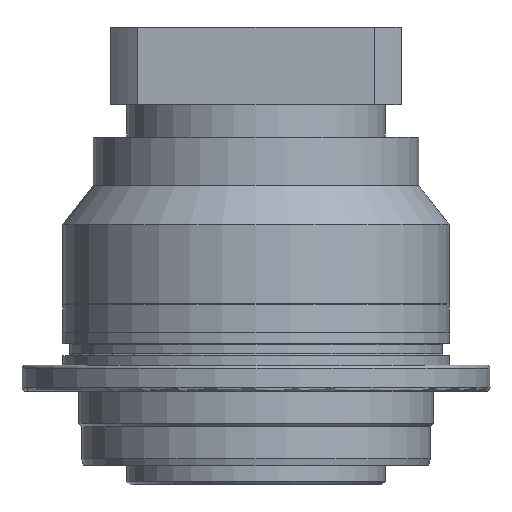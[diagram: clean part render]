
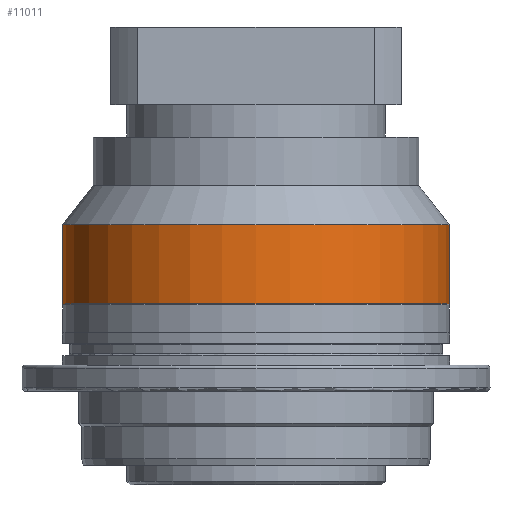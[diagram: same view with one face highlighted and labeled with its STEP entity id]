
A CAD part, front view. The second image highlights one B-rep face of the part: STEP entity #11011.
In plain terms, the highlighted cylindrical face has radius 59.9 mm (diameter 119.8 mm), a partial arc.
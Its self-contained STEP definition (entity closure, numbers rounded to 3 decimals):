
#402 = CARTESIAN_POINT ( 'NONE',  ( -563.5, 0., -59.9 ) ) ;
#500 = VECTOR ( 'NONE', #9006, 1000. ) ;
#719 = DIRECTION ( 'NONE',  ( 0., 0., -1. ) ) ;
#796 = EDGE_CURVE ( 'NONE', #12230, #11183, #12219, .T. ) ;
#1004 = CARTESIAN_POINT ( 'NONE',  ( -539., 0., 0. ) ) ;
#2672 = CARTESIAN_POINT ( 'NONE',  ( -563.5, 0., 59.9 ) ) ;
#2675 = VERTEX_POINT ( 'NONE', #7469 ) ;
#2791 = DIRECTION ( 'NONE',  ( 1., 0., 0. ) ) ;
#2897 = CARTESIAN_POINT ( 'NONE',  ( -563.5, 0., 0. ) ) ;
#3175 = ORIENTED_EDGE ( 'NONE', *, *, #5815, .F. ) ;
#3363 = VECTOR ( 'NONE', #2791, 1000. ) ;
#3372 = AXIS2_PLACEMENT_3D ( 'NONE', #1004, #6725, #8764 ) ;
#3714 = DIRECTION ( 'NONE',  ( 1., 0., 0. ) ) ;
#3862 = DIRECTION ( 'NONE',  ( -1., 0., 0. ) ) ;
#4631 = CARTESIAN_POINT ( 'NONE',  ( -563.5, 0., 0. ) ) ;
#4635 = CARTESIAN_POINT ( 'NONE',  ( -539., 0., -59.9 ) ) ;
#4781 = EDGE_CURVE ( 'NONE', #9319, #2675, #8265, .T. ) ;
#5815 = EDGE_CURVE ( 'NONE', #2675, #11183, #6253, .T. ) ;
#6068 = EDGE_CURVE ( 'NONE', #9319, #12230, #10768, .T. ) ;
#6253 = LINE ( 'NONE', #2672, #3363 ) ;
#6725 = DIRECTION ( 'NONE',  ( -1., 0., 0. ) ) ;
#7469 = CARTESIAN_POINT ( 'NONE',  ( -563.5, 0., 59.9 ) ) ;
#7485 = EDGE_LOOP ( 'NONE', ( #3175, #7744, #7902, #11267 ) ) ;
#7731 = DIRECTION ( 'NONE',  ( 0., 0., -1. ) ) ;
#7744 = ORIENTED_EDGE ( 'NONE', *, *, #4781, .F. ) ;
#7902 = ORIENTED_EDGE ( 'NONE', *, *, #6068, .T. ) ;
#8265 = CIRCLE ( 'NONE', #8751, 59.9 ) ;
#8751 = AXIS2_PLACEMENT_3D ( 'NONE', #2897, #3862, #7731 ) ;
#8752 = AXIS2_PLACEMENT_3D ( 'NONE', #4631, #3714, #719 ) ;
#8764 = DIRECTION ( 'NONE',  ( 0., 0., -1. ) ) ;
#9006 = DIRECTION ( 'NONE',  ( 1., 0., 0. ) ) ;
#9319 = VERTEX_POINT ( 'NONE', #10645 ) ;
#9485 = FACE_OUTER_BOUND ( 'NONE', #7485, .T. ) ;
#10645 = CARTESIAN_POINT ( 'NONE',  ( -563.5, 0., -59.9 ) ) ;
#10768 = LINE ( 'NONE', #402, #500 ) ;
#10839 = CYLINDRICAL_SURFACE ( 'NONE', #8752, 59.9 ) ;
#11011 = ADVANCED_FACE ( 'NONE', ( #9485 ), #10839, .T. ) ;
#11183 = VERTEX_POINT ( 'NONE', #11981 ) ;
#11267 = ORIENTED_EDGE ( 'NONE', *, *, #796, .T. ) ;
#11981 = CARTESIAN_POINT ( 'NONE',  ( -539., 0., 59.9 ) ) ;
#12219 = CIRCLE ( 'NONE', #3372, 59.9 ) ;
#12230 = VERTEX_POINT ( 'NONE', #4635 ) ;
